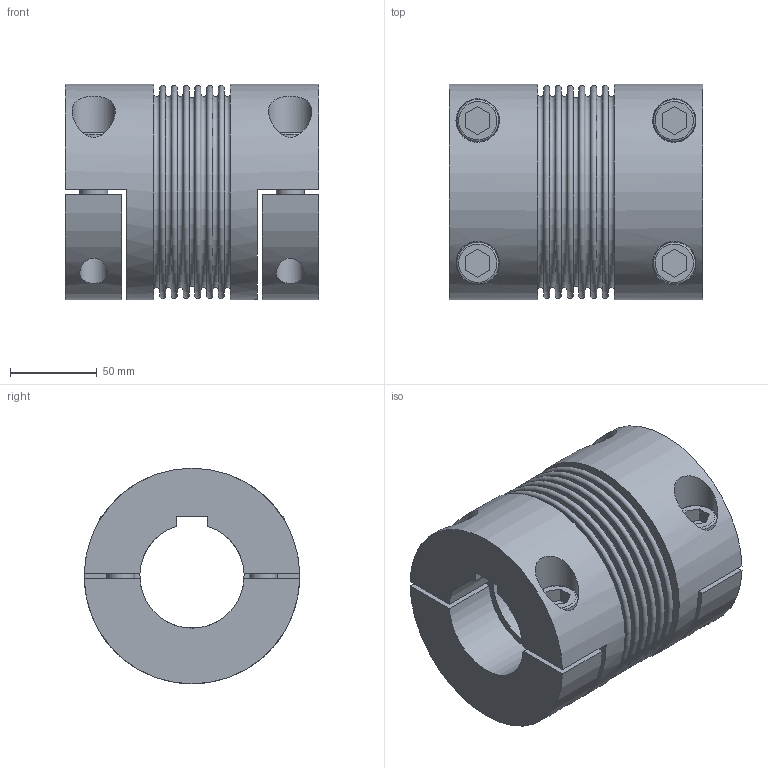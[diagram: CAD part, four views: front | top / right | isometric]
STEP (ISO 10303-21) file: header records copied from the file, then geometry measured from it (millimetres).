
FILE_DESCRIPTION(/* description */ ('STEP AP214'),/* implementation_level */ '2;1');
FILE_NAME(/* name */ 'C:\Diequa Files\DieQua Coupling\BCS\STP\BCS.500.146.#.#.stp',/* time_stamp */ '2018-11-15T10:09:39-06:00',/* author */ ('DiequaCAD'),/* organization */ (''),/* preprocessor_version */ 'ST-DEVELOPER v17.2',/* originating_system */ 'Autodesk Inventor 2019',/* authorisation */ ' ');
FILE_SCHEMA (('AUTOMOTIVE_DESIGN { 1 0 10303 214 3 1 1 }'));
Length unit declared in the file: millimetre
Products named in the file (1): BKH_500_146_60_PFN_60_PFN_33
Bounding box: 146 x 124 x 124 mm (x, y, z)
Volume: 962585.2 mm3; surface area: 187088.7 mm2
Topology: 1 solids, 1 shells, 120 faces, 292 edges, 208 vertices
Faces by surface type: plane 78, cylinder 25, torus 17
Full cylindrical faces by diameter (mm): 16 x8, 24 x4, 25 x4, 100 x1, 124 x2
Entity records: 3983 total; most frequent: CARTESIAN_POINT 945, DIRECTION 651, ORIENTED_EDGE 584, EDGE_CURVE 292, AXIS2_PLACEMENT_3D 254, VERTEX_POINT 208, EDGE_LOOP 160, LINE 143
